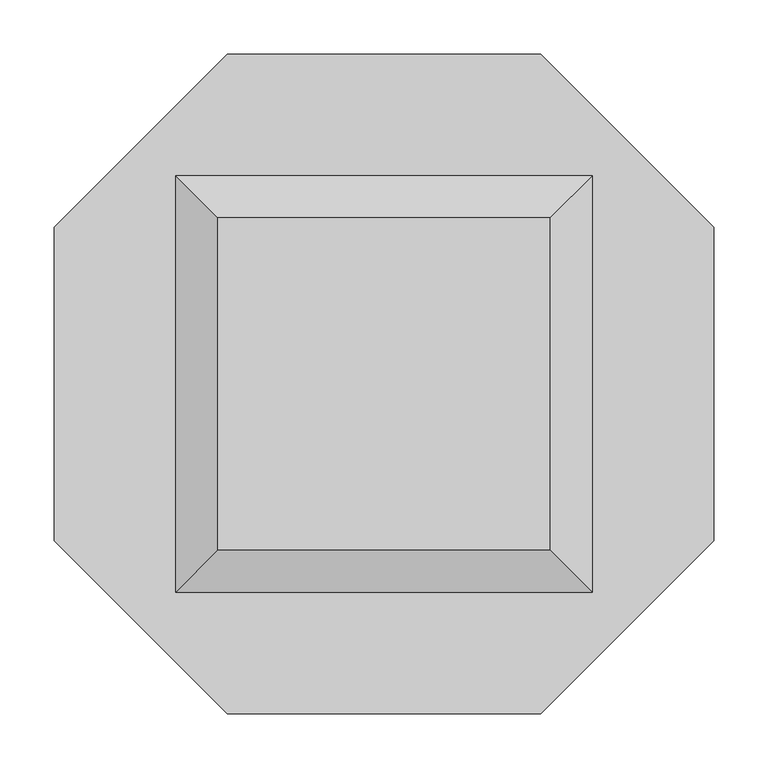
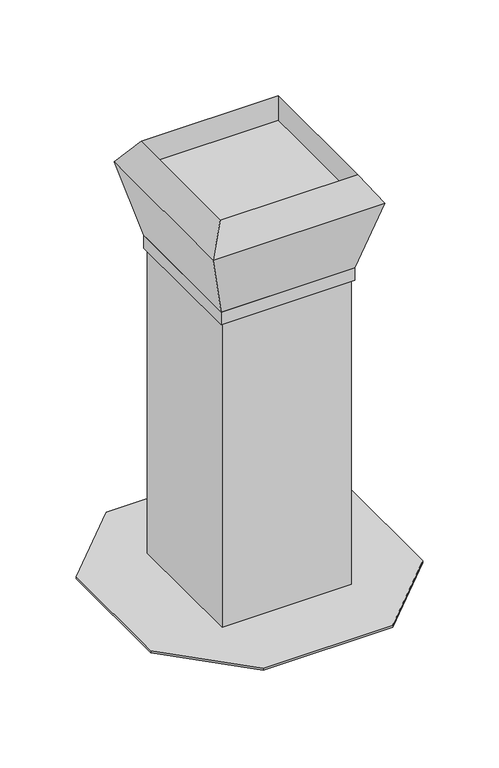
"""IFC4 building model written with IfcOpenShell, lengths in millimetres: proxy geometry, KORF_Вентилятор_Вытяжной_Крышный_KW : KW 30/25-2Е.А."""

from ifc_helpers import new_model, si_unit, frame, origin, place, context, project, spatial, polyline, outline, extrude, faceted_brep, source, transform, mapped, element, save


def mechanical_equipment_86ce59b1(model_context):
    return source(origin(), model_context, "Body", "SolidModel", [
        faceted_brep([(90.0, 114.0, -1.0), (90.0, 90.0, -1.0), (-90.0, 90.0, -1.0), (-90.0, 114.0, -1.0), (90.0, -90.0, -1.0), (90.0, -114.0, -1.0), (-90.0, -114.0, -1.0), (-90.0, -90.0, -1.0), (-90.0, 114.0, 0.0), (90.0, 114.0, 0.0), (-90.0, 90.0, 0.0), (90.0, 90.0, 0.0), (-90.0, -114.0, 0.0), (-90.0, -90.0, 0.0), (90.0, -114.0, 0.0), (90.0, -90.0, 0.0), (-114.0, 90.0, 0.0), (-114.0, -90.0, 0.0), (114.0, -90.0, 0.0), (114.0, 90.0, 0.0), (89.0, 89.0, 0.0), (89.0, -89.0, 0.0), (-89.0, -89.0, 0.0), (-89.0, 89.0, 0.0), (-114.0, 90.0, -1.0), (-114.0, -90.0, -1.0), (114.0, -90.0, -1.0), (114.0, 90.0, -1.0), (90.0, -90.0, -93.0), (-90.0, -90.0, -93.0), (-90.0, 90.0, -93.0), (90.0, 90.0, -93.0), (89.0, 89.0, -93.0), (-89.0, 89.0, -93.0), (-89.0, -89.0, -93.0), (89.0, -89.0, -93.0)], [[[0, 1, 2, 3]], [[4, 5, 6, 7]], [[0, 3, 8, 9]], [[3, 2, 10, 8]], [[1, 0, 9, 11]], [[7, 6, 12, 13]], [[6, 5, 14, 12]], [[5, 4, 15, 14]], [[16, 17, 13, 12, 14, 15, 18, 19, 11, 9, 8, 10], [20, 21, 22, 23]], [[24, 2, 7, 25]], [[26, 4, 1, 27]], [[17, 16, 24, 25]], [[13, 17, 25, 7]], [[16, 10, 2, 24]], [[19, 18, 26, 27]], [[11, 19, 27, 1]], [[18, 15, 4, 26]], [[28, 29, 30, 31], [32, 33, 34, 35]], [[28, 31, 1, 4]], [[31, 30, 2, 1]], [[30, 29, 7, 2]], [[29, 28, 4, 7]], [[21, 20, 32, 35]], [[22, 21, 35, 34]], [[23, 22, 34, 33]], [[20, 23, 33, 32]]]),
        faceted_brep([(145.0, 145.0, 757.0), (-145.0, 145.0, 757.0), (-145.0, -145.0, 757.0), (145.0, -145.0, 757.0), (145.0, 305.0, 0.0), (305.0, 145.0, 0.0), (305.0, -145.0, 0.0), (145.0, -305.0, 0.0), (-145.0, -305.0, 0.0), (-305.0, -145.0, 0.0), (-305.0, 145.0, 0.0), (-145.0, 305.0, 0.0), (145.0, 145.0, 5.0), (-145.0, 145.0, 5.0), (-145.0, -145.0, 5.0), (145.0, -145.0, 5.0), (145.0, 305.0, 5.0), (-145.0, 305.0, 5.0), (-305.0, 145.0, 5.0), (-305.0, -145.0, 5.0), (-145.0, -305.0, 5.0), (145.0, -305.0, 5.0), (305.0, -145.0, 5.0), (305.0, 145.0, 5.0)], [[[0, 1, 2, 3]], [[4, 5, 6, 7, 8, 9, 10, 11]], [[1, 0, 12, 13]], [[2, 1, 13, 14]], [[3, 2, 14, 15]], [[0, 3, 15, 12]], [[16, 17, 18, 19, 20, 21, 22, 23], [13, 12, 15, 14]], [[17, 16, 4, 11]], [[18, 17, 11, 10]], [[19, 18, 10, 9]], [[20, 19, 9, 8]], [[21, 20, 8, 7]], [[22, 21, 7, 6]], [[23, 22, 6, 5]], [[16, 23, 5, 4]]]),
        faceted_brep([(192.5, 192.5, 920.8), (192.5, -192.5, 920.8), (-192.5, -192.5, 920.8), (-192.5, 192.5, 920.8), (154.0, 154.0, 920.8), (-154.0, 154.0, 920.8), (-154.0, -154.0, 920.8), (154.0, -154.0, 920.8), (-154.0, 154.0, 979.0), (154.0, 154.0, 979.0), (-154.0, -154.0, 979.0), (154.0, -154.0, 979.0)], [[[0, 1, 2, 3], [4, 5, 6, 7]], [[0, 3, 8, 9]], [[3, 2, 10, 8]], [[2, 1, 11, 10]], [[1, 0, 9, 11]], [[8, 5, 4, 9]], [[5, 8, 10, 6]], [[6, 10, 11, 7]], [[9, 4, 7, 11]]]),
        faceted_brep([(192.5, 192.5, 920.8), (-192.5, 192.5, 920.8), (-192.5, -192.5, 920.8), (192.5, -192.5, 920.8), (150.0, 150.0, 757.0), (150.0, -150.0, 757.0), (-150.0, -150.0, 757.0), (-150.0, 150.0, 757.0)], [[[0, 1, 2, 3]], [[4, 5, 6, 7]], [[4, 7, 1, 0]], [[7, 6, 2, 1]], [[6, 5, 3, 2]], [[5, 4, 0, 3]]]),
        extrude(outline(polyline([(150.0, 150.0), (150.0, -150.0), (-150.0, -150.0), (-150.0, 150.0), (150.0, 150.0)]), holes=[polyline([(148.0, 148.0), (-148.0, 148.0), (-148.0, -148.0), (148.0, -148.0), (148.0, 148.0)])]), frame((0.0, 0.0, 727.0), z_axis=(0.0, 0.0, 1.0), x_axis=(1.0, 0.0, 0.0)), (0.0, 0.0, 1.0), 30.0),
    ])


if __name__ == "__main__":
    model = new_model("IFC4")
    model_context = context("Model", 3, world=origin())
    ifc_project = project(units=[si_unit("LENGTHUNIT", "METRE", prefix="MILLI")], contexts=[model_context])
    site = spatial("IfcSite", under=ifc_project)
    building = spatial("IfcBuilding", under=site)
    placement = place(None, origin())
    mechanical_equipment_shape = mechanical_equipment_86ce59b1(model_context)
    element("IfcBuildingElementProxy", 1, Name="KORF_Вентилятор_Вытяжной_Крышный_KW : KW 30/25-2Е.А", ObjectType="KORF_Вентилятор_Вытяжной_Крышный_KW : KW 30/25-2Е.А", at=placement, inside=building, context=model_context, shape_type="MappedRepresentation", body=[
        mapped(mechanical_equipment_shape, transform((0.0, 0.0, 0.0), x_axis=(1.0, 0.0, 0.0), y_axis=(0.0, 1.0, 0.0), z_axis=(0.0, 0.0, 1.0))),
    ])
    save(model, "model.ifc")
